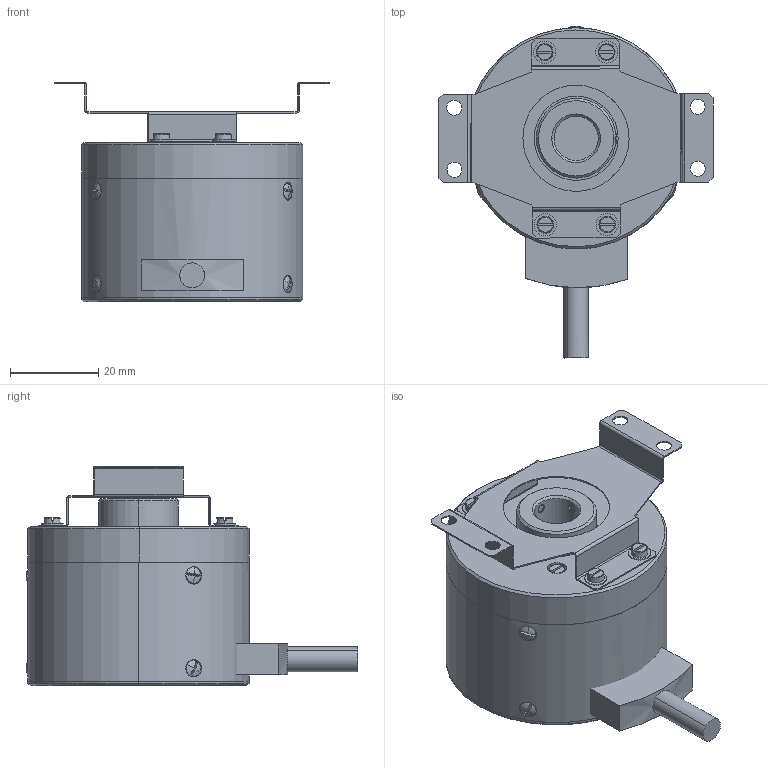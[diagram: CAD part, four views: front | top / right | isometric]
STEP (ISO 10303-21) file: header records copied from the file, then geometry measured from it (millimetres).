
FILE_DESCRIPTION (( 'STEP AP214' ), '1' );
FILE_NAME ('ﾋﾈﾐ-250.STEP', '2017-05-23T08:51:18', ( '' ), ( '' ), 'SwSTEP 2.0', 'SolidWorks 2013', '' );
FILE_SCHEMA (( 'AUTOMOTIVE_DESIGN' ));
Length unit declared in the file: millimetre
Products named in the file (1): ﾋﾈﾐ-250
Bounding box: 62.06 x 75.01 x 49.69 mm (x, y, z)
Surface area: 16728.3 mm2 (no closed solid volume)
Topology: 0 solids, 32 shells, 299 faces, 858 edges, 586 vertices
Faces by surface type: plane 144, cylinder 71, cone 32, sphere 24, torus 16, bspline 12
Entity records: 18833 total; most frequent: CARTESIAN_POINT 7938, DIRECTION 1574, ORIENTED_EDGE 1436, EDGE_CURVE 858, AXIS2_PLACEMENT_3D 618, VERTEX_POINT 586, EDGE_LOOP 341, LINE 338
